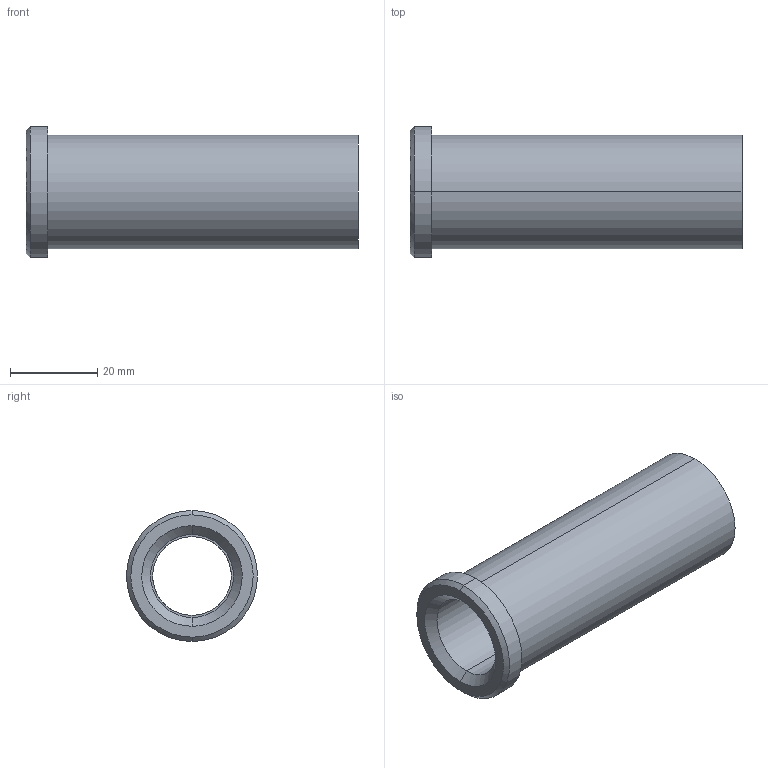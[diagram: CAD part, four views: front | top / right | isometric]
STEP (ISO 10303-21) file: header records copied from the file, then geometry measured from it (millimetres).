
FILE_DESCRIPTION(('CATIA V5 STEP Exchange'),'2;1');
FILE_NAME('C:\Users\Utente\Desktop\IO LAVORO\3D X SITO CF\X SITO\PLASTICA\353\353-18X76.stp','2021-05-08T08:40:15+00:00',('none'),('none'),'CATIA Version 5 Release 20 GA (IN-10)','CATIA V5 STEP AP203','none');
FILE_SCHEMA(('CONFIG_CONTROL_DESIGN'));
Length unit declared in the file: millimetre
Products named in the file (1): 353-18X76
Bounding box: 76 x 30 x 30 mm (x, y, z)
Volume: 20526.1 mm3; surface area: 11442.1 mm2
Topology: 1 solids, 1 shells, 18 faces, 58 edges, 44 vertices
Faces by surface type: cylinder 8, plane 4, cone 4, torus 2
Entity records: 840 total; most frequent: CARTESIAN_POINT 289, ORIENTED_EDGE 116, DIRECTION 82, EDGE_CURVE 58, AXIS2_PLACEMENT_3D 53, VERTEX_POINT 44, CIRCLE 34, EDGE_LOOP 22
